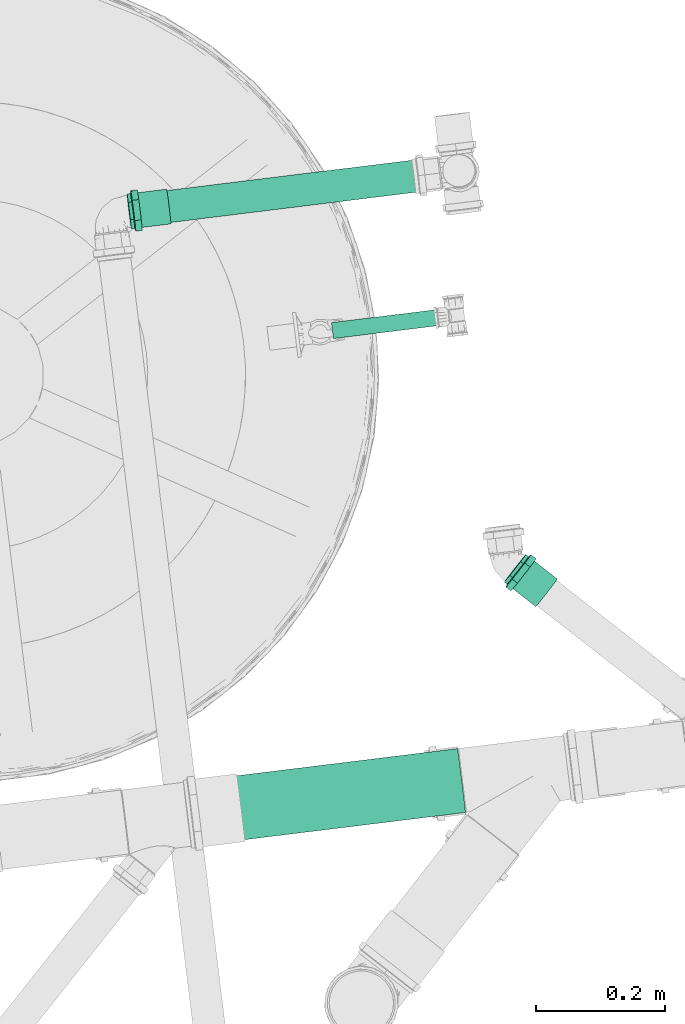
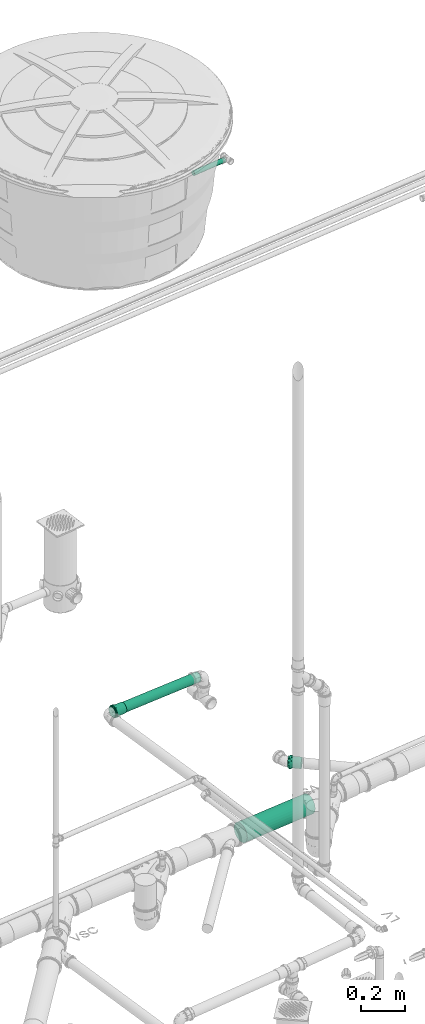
# One storey, part 25 of 97: 3 flow segments, 2 flow fittings.
"""IFC2X3 building model written with IfcOpenShell, lengths in centimetres."""

import ifcopenshell
import ifcopenshell.guid

model = None  # the IFC model being written
_history = None  # IfcOwnerHistory: only IFC2X3 demands one
_inside = {}  # id of a spatial element -> (the spatial element, [elements in it])
_under = {}  # id of a project, library or spatial element -> (it, [spatial elements below it])
_declared = {}  # id of a project -> (the project, [libraries it declares])
_typed = {}  # id of a type object -> (the type object, [elements of that type])
_made_of = {}  # id of a material, layer set ... -> (it, [elements and type objects made of it])


def new_model(schema):
    """Start an empty IFC model of exactly this schema.

    Asked for "IFC4X3", IfcOpenShell would pick the latest addendum, in which some entities
    have other attributes; the version numbers below select the first issue.
    IFC2X3 requires an IfcOwnerHistory on every rooted entity: one is made here for all.
    """
    global model, _history
    if schema == "IFC4X3":
        model = ifcopenshell.file(schema_version=(4, 3, 0, 0))
    else:
        model = ifcopenshell.file(schema=schema)
    _inside.clear()
    _under.clear()
    _declared.clear()
    _typed.clear()
    _made_of.clear()
    _history = None
    if model.schema == "IFC2X3":
        org = make("IfcOrganization", Name="unknown")
        user = make(
            "IfcPersonAndOrganization",
            ThePerson=make("IfcPerson", FamilyName="unknown"),
            TheOrganization=org,
        )
        app = make(
            "IfcApplication",
            ApplicationDeveloper=org,
            Version="unknown",
            ApplicationFullName="unknown",
            ApplicationIdentifier="unknown",
        )
        _history = make(
            "IfcOwnerHistory",
            OwningUser=user,
            OwningApplication=app,
            ChangeAction="ADDED",
            CreationDate=0,
        )
    return model


def make(cls, **values):
    """One entity of the class cls with the attributes given. An attribute that is None is left unset."""
    return model.create_entity(
        cls, **{name: value for name, value in values.items() if value is not None}
    )


def entity(cls, *values):
    """Any entity or typed value of the class cls, its attributes in the order of the schema. None: left unset."""
    e = model.create_entity(cls)
    for i, value in enumerate(values):
        if value is not None:
            e[i] = value
    return e


def rooted(cls, **values):
    """An entity with a GlobalId (a new one), such as an element, a storey or a relation."""
    return make(cls, GlobalId=ifcopenshell.guid.new(), OwnerHistory=_history, **values)


def si_unit(unit_type, name, prefix=None):
    """IfcSIUnit, for example si_unit("LENGTHUNIT", "METRE", prefix="MILLI")."""
    return make("IfcSIUnit", UnitType=unit_type, Prefix=prefix, Name=name)


def converted_unit(unit_type, name, factor, base, dimensions=None, offset=None):
    """IfcConversionBasedUnit, such as the inch: factor (a typed value) times the base unit."""
    return make(
        "IfcConversionBasedUnit"
        if offset is None
        else "IfcConversionBasedUnitWithOffset",
        ConversionOffset=offset,
        Dimensions=None
        if dimensions is None
        else entity("IfcDimensionalExponents", *dimensions),
        UnitType=unit_type,
        Name=name,
        ConversionFactor=make(
            "IfcMeasureWithUnit", ValueComponent=factor, UnitComponent=base
        ),
    )


def derived_unit(unit_type, elements):
    """IfcDerivedUnit: a product of units, each with its exponent."""
    return make(
        "IfcDerivedUnit",
        Elements=[
            make("IfcDerivedUnitElement", Unit=unit, Exponent=power)
            for unit, power in elements
        ],
        UnitType=unit_type,
    )


def assignment(units):
    """IfcUnitAssignment: the units of a project."""
    return None if units is None else make("IfcUnitAssignment", Units=units)


def point(xyz):
    """IfcCartesianPoint."""
    return None if xyz is None else make("IfcCartesianPoint", Coordinates=xyz)


def direction(xyz):
    """IfcDirection."""
    return None if xyz is None else make("IfcDirection", DirectionRatios=xyz)


def frame(location, z_axis=None, x_axis=None):
    """IfcAxis2Placement3D, a coordinate frame: its origin and axes. An axis left out is left unset."""
    return make(
        "IfcAxis2Placement3D",
        Location=point(location),
        Axis=direction(z_axis),
        RefDirection=direction(x_axis),
    )


def frame_2d(location, x_axis=None):
    """IfcAxis2Placement2D, a coordinate frame in the plane: its origin and x axis."""
    return make(
        "IfcAxis2Placement2D", Location=point(location), RefDirection=direction(x_axis)
    )


def origin():
    """The frame at (0, 0, 0) with its axes left unset."""
    return frame((0.0, 0.0, 0.0))


def origin_2d_with_axis():
    """The frame at (0, 0) in the plane with the x axis (1, 0) written out."""
    return frame_2d((0.0, 0.0), x_axis=(1.0, 0.0))


def place(relative_to, where):
    """IfcLocalPlacement: puts the frame where relative to a parent placement (None: the world)."""
    return make(
        "IfcLocalPlacement", PlacementRelTo=relative_to, RelativePlacement=where
    )


def context(
    kind, dimensions, precision=None, world=None, true_north=None, identifier=None
):
    """IfcGeometricRepresentationContext, for example the 3D "Model" context."""
    return make(
        "IfcGeometricRepresentationContext",
        ContextIdentifier=identifier,
        ContextType=kind,
        CoordinateSpaceDimension=dimensions,
        Precision=precision,
        WorldCoordinateSystem=world,
        TrueNorth=true_north,
    )


def subcontext(parent, identifier, kind, view, scale=None):
    """IfcGeometricRepresentationSubContext, for example "Body" below "Model"."""
    return make(
        "IfcGeometricRepresentationSubContext",
        ContextIdentifier=identifier,
        ContextType=kind,
        ParentContext=parent,
        TargetScale=scale,
        TargetView=view,
    )


def project(units=None, contexts=None):
    """IfcProject with its units and contexts."""
    return rooted(
        "IfcProject",
        Name="project",
        RepresentationContexts=contexts,
        UnitsInContext=assignment(units),
    )


def spatial(cls, under=None, at=None, **own):
    """A site, building, storey or space (cls), placed at a placement, below another one or the project."""
    s = rooted(cls, ObjectPlacement=at, **own)
    if under is not None:
        _under.setdefault(under.id(), (under, []))[1].append(s)
    return s


def profile(cls, at=None, kind="AREA", **sizes):
    """A parametric profile (cls). Its sizes go by their IFC names, for example OverallWidth=200.0."""
    return make(cls, ProfileType=kind, Position=at, **sizes)


def circle(**sizes):
    """IfcCircleProfileDef."""
    return profile("IfcCircleProfileDef", **sizes)


def extrude(swept, where, along, depth):
    """IfcExtrudedAreaSolid: the profile swept, set in the frame where, extruded along a direction by depth."""
    return make(
        "IfcExtrudedAreaSolid",
        SweptArea=swept,
        Position=where,
        ExtrudedDirection=direction(along),
        Depth=depth,
    )


def faces_of(points, faces, orient=None, outer=None):
    """IfcFace entities. A face is a list of loops; a loop is a list of indices into points, from 0.

    orient and outer hold one flag for each loop. By default every Orientation is true, the
    first loop of a face is its IfcFaceOuterBound and the others are IfcFaceBound.
    """
    made = []
    for i, loops in enumerate(faces):
        bounds = []
        for j, loop in enumerate(loops):
            is_outer = j == 0 if outer is None else outer[i][j]
            bounds.append(
                make(
                    "IfcFaceOuterBound" if is_outer else "IfcFaceBound",
                    Bound=make("IfcPolyLoop", Polygon=[points[k] for k in loop]),
                    Orientation=True if orient is None else orient[i][j],
                )
            )
        made.append(make("IfcFace", Bounds=bounds))
    return made


def faceted_brep(points, faces, orient=None, outer=None, voids=None):
    """IfcFacetedBrep: a solid bounded by flat faces; with voids (closed shells), ...WithVoids."""
    shared = [point(p) for p in points]
    hull = make("IfcClosedShell", CfsFaces=faces_of(shared, faces, orient, outer))
    if voids is None:
        return make("IfcFacetedBrep", Outer=hull)
    return make(
        "IfcFacetedBrepWithVoids",
        Outer=hull,
        Voids=[
            make(cls, CfsFaces=faces_of(shared, fs, o, b)) for cls, fs, o, b in voids
        ],
    )


def shape(context_of_items, identifier, shape_type, items):
    """IfcShapeRepresentation: the items that make up one representation, for example the "Body"."""
    return make(
        "IfcShapeRepresentation",
        ContextOfItems=context_of_items,
        RepresentationIdentifier=identifier,
        RepresentationType=shape_type,
        Items=items,
    )


def source(mapping_origin, context_of_items, identifier, shape_type, items):
    """IfcRepresentationMap: a shape defined once, which mapped items show again and again."""
    return make(
        "IfcRepresentationMap",
        MappingOrigin=mapping_origin,
        MappedRepresentation=shape(context_of_items, identifier, shape_type, items),
    )


def transform(
    local_origin,
    x_axis=None,
    y_axis=None,
    z_axis=None,
    scale=None,
    scale2=None,
    scale3=None,
    uniform=True,
):
    """IfcCartesianTransformationOperator3D, or its non-uniform kind. x_axis, y_axis, z_axis: its Axis1, 2, 3."""
    if uniform:
        return make(
            "IfcCartesianTransformationOperator3D",
            Axis1=direction(x_axis),
            Axis2=direction(y_axis),
            LocalOrigin=point(local_origin),
            Scale=scale,
            Axis3=direction(z_axis),
        )
    return make(
        "IfcCartesianTransformationOperator3DnonUniform",
        Axis1=direction(x_axis),
        Axis2=direction(y_axis),
        LocalOrigin=point(local_origin),
        Scale=scale,
        Axis3=direction(z_axis),
        Scale2=scale2,
        Scale3=scale3,
    )


def mapped(mapping_source, mapping_target):
    """IfcMappedItem: shows the shape of a source again, moved by a transform."""
    return make(
        "IfcMappedItem", MappingSource=mapping_source, MappingTarget=mapping_target
    )


def material(Name=None, Category=None):
    """IfcMaterial."""
    return make("IfcMaterial", Name=Name, Category=Category)


def made_of(thing, what):
    """Note that an element or type object is made of a material, layer set ...; save() writes the relation."""
    if what is not None:
        _made_of.setdefault(what.id(), (what, []))[1].append(thing)
    return thing


def type_object(cls, material=None, **own):
    """A type object (cls), such as IfcWallType, which elements share."""
    return made_of(rooted(cls, **own), material)


def type_shapes(of_type, sources):
    """Give a type object the sources (RepresentationMaps) that its elements show as mapped items."""
    of_type.RepresentationMaps = sources


def element(
    cls,
    number,
    at=None,
    inside=None,
    cuts=None,
    type_object=None,
    material=None,
    context=None,
    identifier="Body",
    shape_type=None,
    held_by="IfcProductDefinitionShape",
    body=None,
    shapes=None,
    **own,
):
    """One element of the class cls, such as IfcWall. Its Tag is "e" and its number.

    at: its placement. inside: the storey or other place that contains it. cuts: it is an
    opening in that element (IfcRelVoidsElement). A single representation is given by context,
    identifier, shape_type and body (its items); several are given by shapes. held_by: the class
    of the entity that holds the representations. save() writes the other relations.
    """
    e = rooted(cls, Tag="e%d" % number, ObjectPlacement=at, **own)
    if body is not None:
        shapes = [shape(context, identifier, shape_type, body)]
    if shapes is not None:
        e.Representation = make(held_by, Representations=shapes)
    if inside is not None:
        _inside.setdefault(inside.id(), (inside, []))[1].append(e)
    if cuts is not None:
        rooted(
            "IfcRelVoidsElement", RelatingBuildingElement=cuts, RelatedOpeningElement=e
        )
    if type_object is not None:
        _typed.setdefault(type_object.id(), (type_object, []))[1].append(e)
    return made_of(e, material)


def aggregate(whole, parts):
    """IfcRelAggregates: a whole, such as a stair, and the parts it consists of."""
    return rooted("IfcRelAggregates", RelatingObject=whole, RelatedObjects=parts)


def save(model, path):
    """Write the relations noted so far, then the file.

    IfcRelAggregates (storeys below a building ...), IfcRelContainedInSpatialStructure (elements
    in a storey), IfcRelDefinesByType, IfcRelAssociatesMaterial and IfcRelDeclares: one each for
    every whole, place, type object, material and project.
    """
    for whole, parts in _under.values():
        aggregate(whole, parts)
    for where, things in _inside.values():
        rooted(
            "IfcRelContainedInSpatialStructure",
            RelatedElements=things,
            RelatingStructure=where,
        )
    for kind, things in _typed.values():
        rooted("IfcRelDefinesByType", RelatedObjects=things, RelatingType=kind)
    for what, things in _made_of.values():
        rooted("IfcRelAssociatesMaterial", RelatedObjects=things, RelatingMaterial=what)
    for by, libraries in _declared.values():
        rooted("IfcRelDeclares", RelatingContext=by, RelatedDefinitions=libraries)
    model.write(path)


model = new_model("IFC2X3")

# Units and contexts
model_context = context("Model", 3, precision=0.001, world=origin(), true_north=direction((6.12303176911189e-17, 1.0)))
body_context = subcontext(model_context, "Body", "Model", "MODEL_VIEW")
ifc_project = project(units=[si_unit("LENGTHUNIT", "METRE", prefix="CENTI"), si_unit("AREAUNIT", "SQUARE_METRE"), si_unit("VOLUMEUNIT", "CUBIC_METRE"), converted_unit("PLANEANGLEUNIT", "DEGREE", entity("IfcRatioMeasure", 0.0174532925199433), si_unit("PLANEANGLEUNIT", "RADIAN"), dimensions=[0, 0, 0, 0, 0, 0, 0]), si_unit("MASSUNIT", "GRAM", prefix="KILO"), derived_unit("MASSDENSITYUNIT", [(si_unit("MASSUNIT", "GRAM", prefix="KILO"), 1), (si_unit("LENGTHUNIT", "METRE"), -3)]), derived_unit("MOMENTOFINERTIAUNIT", [(si_unit("LENGTHUNIT", "METRE"), 4)]), si_unit("TIMEUNIT", "SECOND"), si_unit("FREQUENCYUNIT", "HERTZ"), si_unit("THERMODYNAMICTEMPERATUREUNIT", "DEGREE_CELSIUS"), derived_unit("THERMALTRANSMITTANCEUNIT", [(si_unit("MASSUNIT", "GRAM", prefix="KILO"), 1), (si_unit("THERMODYNAMICTEMPERATUREUNIT", "KELVIN"), -1), (si_unit("TIMEUNIT", "SECOND"), -3)]), derived_unit("VOLUMETRICFLOWRATEUNIT", [(si_unit("LENGTHUNIT", "METRE"), 3), (si_unit("TIMEUNIT", "SECOND"), -1)]), si_unit("ELECTRICCURRENTUNIT", "AMPERE"), si_unit("ELECTRICVOLTAGEUNIT", "VOLT"), si_unit("POWERUNIT", "WATT"), si_unit("FORCEUNIT", "NEWTON", prefix="KILO"), si_unit("ILLUMINANCEUNIT", "LUX"), si_unit("LUMINOUSFLUXUNIT", "LUMEN"), si_unit("LUMINOUSINTENSITYUNIT", "CANDELA"), derived_unit("USERDEFINED", [(si_unit("MASSUNIT", "GRAM", prefix="KILO"), -1), (si_unit("LENGTHUNIT", "METRE"), -2), (si_unit("TIMEUNIT", "SECOND"), 3), (si_unit("LUMINOUSFLUXUNIT", "LUMEN"), 1)]), derived_unit("LINEARVELOCITYUNIT", [(si_unit("LENGTHUNIT", "METRE"), 1), (si_unit("TIMEUNIT", "SECOND"), -1)]), si_unit("PRESSUREUNIT", "PASCAL"), derived_unit("USERDEFINED", [(si_unit("LENGTHUNIT", "METRE"), -2), (si_unit("MASSUNIT", "GRAM", prefix="KILO"), 1), (si_unit("TIMEUNIT", "SECOND"), -2)]), derived_unit("LINEARFORCEUNIT", [(si_unit("MASSUNIT", "GRAM", prefix="KILO"), 1), (si_unit("LENGTHUNIT", "METRE"), 1), (si_unit("TIMEUNIT", "SECOND"), -2), (si_unit("LENGTHUNIT", "METRE"), -1)]), derived_unit("PLANARFORCEUNIT", [(si_unit("MASSUNIT", "GRAM", prefix="KILO"), 1), (si_unit("LENGTHUNIT", "METRE"), 1), (si_unit("TIMEUNIT", "SECOND"), -2), (si_unit("LENGTHUNIT", "METRE"), -2)])], contexts=[model_context])

# Site, building, storey
site_placement = place(None, origin())
site = spatial("IfcSite", under=ifc_project, at=site_placement, Name="Default", CompositionType="ELEMENT")
building_placement = place(site_placement, origin())
building = spatial("IfcBuilding", under=site, at=building_placement, Name="HIDROSSANITÁRIO", CompositionType="ELEMENT")
storey_placement = place(building_placement, frame((0.0, 0.0, -260.0)))
storey = spatial("IfcBuildingStorey", under=building, at=storey_placement, Name="TÉRREO-HID", CompositionType="ELEMENT", Elevation=-260.0)

# Flow segments
pipe_segment_type_1 = type_object("IfcPipeSegmentType", Name="Tipos de tubos:Tubo Marrom - Água Fria - Soldável", PredefinedType="NOTDEFINED")
flow_segment_1_placement = place(storey_placement, origin())
element("IfcFlowSegment", 1, at=flow_segment_1_placement, inside=storey, type_object=pipe_segment_type_1, Name="Tipos de tubos:Tubo Marrom - Água Fria - Soldável", ObjectType="Tipos de tubos:Tubo Marrom - Água Fria - Soldável", context=body_context, shape_type="SweptSolid", body=[
    extrude(circle(Radius=1.25, at=origin_2d_with_axis()), frame((-1599.67209853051, 3046.33017801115, 277.38892934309), z_axis=(0.992505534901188, 0.122199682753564, 2.69339050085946e-05), x_axis=(0.122199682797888, -0.992505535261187, 0.0)), (0.0, 0.0, 1.0), 17.7524779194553),
])
pipe_segment_type_2 = type_object("IfcPipeSegmentType", Name="Tipos de tubos:Tubo - Esgoto - Série Normal", PredefinedType="NOTDEFINED")
flow_segment_2_placement = place(storey_placement, origin())
element("IfcFlowSegment", 2, at=flow_segment_2_placement, inside=storey, type_object=pipe_segment_type_2, Name="Tipos de tubos:Tubo - Esgoto - Série Normal", ObjectType="Tipos de tubos:Tubo - Esgoto - Série Normal", context=body_context, shape_type="SweptSolid", body=[
    extrude(circle(Radius=2.5, at=origin_2d_with_axis()), frame((-1583.10702259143, 3070.76831600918, -21.3284955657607), z_axis=(-0.992269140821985, -0.12248508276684, 0.0199839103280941), x_axis=(0.122509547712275, -0.992467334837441, 0.0)), (0.0, 0.0, 1.0), 48.5002434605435),
])
flow_segment_3_placement = place(storey_placement, origin())
element("IfcFlowSegment", 3, at=flow_segment_3_placement, inside=storey, type_object=pipe_segment_type_2, Name="Tipos de tubos:Tubo - Esgoto - Série Normal", ObjectType="Tipos de tubos:Tubo - Esgoto - Série Normal", context=body_context, shape_type="SweptSolid", body=[
    extrude(circle(Radius=5.0, at=origin_2d_with_axis()), frame((-1617.90243926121, 2971.78374076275, -35.0996313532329), z_axis=(0.992474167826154, 0.122147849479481, -0.00865615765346), x_axis=(-0.122152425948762, 0.992511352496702, 0.0)), (0.0, 0.0, 1.0), 38.5482017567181),
])

# Flow fittings
ifc_material = material(Name="PVC Branco")
pipe_fitting_type = type_object("IfcPipeFittingType", Name="Luva Simples para Conexão - Serie Normal - Esgoto - MEP - Tigre:Standard", PredefinedType="NOTDEFINED", material=ifc_material)
shared_shape = source(origin(), body_context, "Body", "Brep", [
    faceted_brep([(1.65999999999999, 1.59, -2.75396078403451), (1.65999999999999, 2.24859956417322, -2.24859956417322), (1.65999999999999, 1.35999999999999, -2.35558909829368), (1.65999999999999, 0.703987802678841, -2.62731824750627), (1.65999999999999, 0.82304456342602, -3.07164412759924), (1.65999999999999, 1.9233304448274, -1.92333044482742), (1.65999999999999, 2.75396078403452, -1.59), (1.65999999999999, 2.35558909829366, -1.36000000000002), (1.65999999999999, 2.62731824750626, -0.703987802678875), (1.65999999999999, 3.07164412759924, -0.823044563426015), (1.65999999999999, 2.72, 0.0), (1.65999999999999, 3.18, 0.0), (1.65999999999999, 2.62731824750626, 0.703987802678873), (1.65999999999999, 3.07164412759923, 0.823044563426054), (1.65999999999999, 2.35558909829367, 1.36000000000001), (1.65999999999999, 2.7539607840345, 1.59000000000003), (1.65999999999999, 1.9233304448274, 1.92333044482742), (1.65999999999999, 2.24859956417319, 2.24859956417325), (1.65999999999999, 1.35999999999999, 2.35558909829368), (1.65999999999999, 1.58999999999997, 2.75396078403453), (1.65999999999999, 0.703987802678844, 2.62731824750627), (1.65999999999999, 0.823044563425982, 3.07164412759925), (1.65999999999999, 0.0, 2.72), (1.65999999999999, 0.0, 3.18), (1.65999999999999, -0.703987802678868, 2.62731824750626), (1.65999999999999, -0.823044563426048, 3.07164412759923), (1.65999999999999, -1.36000000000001, 2.35558909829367), (1.65999999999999, -1.59000000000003, 2.7539607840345), (1.65999999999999, -1.92333044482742, 1.9233304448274), (1.65999999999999, -2.24859956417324, 2.2485995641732), (1.65999999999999, -2.35558909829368, 1.35999999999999), (1.65999999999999, -2.75396078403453, 1.58999999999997), (1.65999999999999, -3.07164412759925, 0.823044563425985), (1.65999999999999, -2.62731824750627, 0.703987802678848), (1.65999999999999, -3.18, 0.0), (1.65999999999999, -2.72, 0.0), (1.65999999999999, -3.07164412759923, -0.823044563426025), (1.65999999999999, -2.62731824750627, -0.703987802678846), (1.65999999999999, -2.75396078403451, -1.59000000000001), (1.65999999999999, -2.35558909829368, -1.35999999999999), (1.65999999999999, -2.24859956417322, -2.24859956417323), (1.65999999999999, -1.92333044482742, -1.9233304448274), (1.65999999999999, -1.58999999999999, -2.75396078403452), (1.65999999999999, -1.36000000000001, -2.35558909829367), (1.65999999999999, -0.823044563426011, -3.07164412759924), (1.65999999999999, -0.70398780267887, -2.62731824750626), (1.65999999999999, 0.0, -3.18), (1.65999999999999, 0.0, -2.72), (0.650000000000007, -1.07081089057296, 2.94292196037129), (0.650000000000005, -2.43590738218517, 2.04420038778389), (0.650000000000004, -2.7120498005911, 1.56595386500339), (0.650000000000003, -2.98819221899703, 1.08770734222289), (0.650000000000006, -1.58976972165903, 2.75409372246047), (0.650000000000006, -2.0128385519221, 2.39914705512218), (0.650000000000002, -3.08409610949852, 0.54385367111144), (0.650000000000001, -3.18, 0.0), (0.650000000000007, -0.551852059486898, 3.13175019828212), (0.650000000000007, 0.552637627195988, 3.13161167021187), (0.650000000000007, 0.000392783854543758, 3.13168093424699), (0.650000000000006, 2.01344030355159, 2.39864206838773), (0.650000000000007, 1.07154907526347, 2.94265325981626), (0.650000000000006, 1.59046052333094, 2.75369484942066), (0.650000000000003, 2.98846497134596, 1.08695773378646), (0.650000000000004, 2.7124425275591, 1.56527351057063), (0.650000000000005, 2.43642008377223, 2.0435892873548), (0.650000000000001, 3.18, 0.0), (0.649999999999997, 2.43642008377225, -2.04358928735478), (0.649999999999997, 2.71244252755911, -1.5652735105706), (0.649999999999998, 2.98846497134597, -1.08695773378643), (0.649999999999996, 1.59046052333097, -2.75369484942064), (0.649999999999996, 2.01344030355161, -2.39864206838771), (0.649999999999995, 1.07154907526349, -2.94265325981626), (0.649999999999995, 0.552637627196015, -3.13161167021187), (0.649999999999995, -0.551852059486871, -3.13175019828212), (0.649999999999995, 0.000392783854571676, -3.13168093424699), (0.649999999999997, -2.01283855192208, -2.3991470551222), (0.649999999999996, -1.58976972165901, -2.75409372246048), (0.649999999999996, -1.07081089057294, -2.9429219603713), (0.649999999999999, -2.98819221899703, -1.08770734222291), (0.649999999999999, -2.71204980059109, -1.56595386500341), (0.649999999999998, -2.43590738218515, -2.04420038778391), (0.65, -3.08409610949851, -0.543853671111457), (0.64999999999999, -3.06961738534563, -0.625959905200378), (6.20000000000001, 1.36, -2.35558909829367), (6.20000000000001, 1.92333044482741, -1.92333044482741), (6.20000000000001, 1.24999999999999, -2.1650635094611), (6.20000000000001, 0.647047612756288, -2.41481456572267), (6.20000000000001, 0.70398780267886, -2.62731824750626), (6.20000000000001, 1.76776695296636, -1.76776695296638), (6.20000000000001, 2.35558909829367, -1.36), (6.20000000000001, 2.16506350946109, -1.25000000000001), (6.20000000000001, 2.41481456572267, -0.647047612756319), (6.20000000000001, 2.62731824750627, -0.703987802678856), (6.20000000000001, 2.5, 0.0), (6.20000000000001, 2.72, 0.0), (6.20000000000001, 2.41481456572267, 0.647047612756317), (6.20000000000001, 2.62731824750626, 0.703987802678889), (6.20000000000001, 2.16506350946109, 1.25000000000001), (6.20000000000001, 2.35558909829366, 1.36000000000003), (6.20000000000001, 1.76776695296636, 1.76776695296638), (6.20000000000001, 1.92333044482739, 1.92333044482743), (6.20000000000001, 1.24999999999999, 2.1650635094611), (6.20000000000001, 1.35999999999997, 2.35558909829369), (6.20000000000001, 0.64704761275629, 2.41481456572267), (6.20000000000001, 0.703987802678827, 2.62731824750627), (6.20000000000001, 0.0, 2.5), (6.20000000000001, 0.0, 2.72), (6.20000000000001, -0.647047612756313, 2.41481456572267), (6.20000000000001, -0.703987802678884, 2.62731824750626), (6.20000000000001, -1.25000000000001, 2.16506350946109), (6.20000000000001, -1.36000000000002, 2.35558909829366), (6.20000000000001, -1.76776695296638, 1.76776695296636), (6.20000000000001, -1.92333044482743, 1.92333044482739), (6.20000000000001, -2.1650635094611, 1.24999999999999), (6.20000000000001, -2.35558909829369, 1.35999999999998), (6.20000000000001, -2.62731824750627, 0.703987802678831), (6.20000000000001, -2.41481456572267, 0.647047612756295), (6.20000000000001, -2.72, 0.0), (6.20000000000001, -2.5, 0.0), (6.20000000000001, -2.62731824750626, -0.703987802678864), (6.20000000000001, -2.41481456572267, -0.647047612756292), (6.20000000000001, -2.35558909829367, -1.36000000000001), (6.20000000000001, -2.1650635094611, -1.24999999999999), (6.20000000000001, -1.9233304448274, -1.92333044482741), (6.20000000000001, -1.76776695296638, -1.76776695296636), (6.20000000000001, -1.36, -2.35558909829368), (6.20000000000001, -1.25000000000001, -2.16506350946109), (6.20000000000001, -0.703987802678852, -2.62731824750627), (6.20000000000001, -0.647047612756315, -2.41481456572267), (6.20000000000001, 0.0, -2.72), (6.20000000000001, 0.0, -2.5), (0.0, 1.24999999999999, -2.1650635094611), (0.0, 1.92333044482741, -1.92333044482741), (0.0, 1.36, -2.35558909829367), (0.0, 0.647047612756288, -2.41481456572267), (0.0, 1.76776695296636, -1.76776695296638), (0.0, 2.35558909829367, -1.36), (0.0, 2.16506350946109, -1.25000000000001), (0.0, 2.41481456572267, -0.647047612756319), (0.0, 2.62731824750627, -0.703987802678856), (0.0, 2.5, 0.0), (0.0, 2.72, 0.0), (0.0, 2.41481456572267, 0.647047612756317), (0.0, 2.62731824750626, 0.703987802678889), (0.0, 2.16506350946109, 1.25000000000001), (0.0, 2.35558909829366, 1.36000000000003), (0.0, 1.76776695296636, 1.76776695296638), (0.0, 1.92333044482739, 1.92333044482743), (0.0, 1.24999999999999, 2.1650635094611), (0.0, 1.35999999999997, 2.35558909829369), (0.0, 0.64704761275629, 2.41481456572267), (0.0, 0.703987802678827, 2.62731824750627), (0.0, 0.0, 2.5), (0.0, 0.0, 2.72), (0.0, -0.647047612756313, 2.41481456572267), (0.0, -0.703987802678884, 2.62731824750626), (0.0, -1.25000000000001, 2.16506350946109), (0.0, -1.36000000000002, 2.35558909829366), (0.0, -1.76776695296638, 1.76776695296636), (0.0, -1.92333044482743, 1.92333044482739), (0.0, -2.1650635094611, 1.24999999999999), (0.0, -2.35558909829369, 1.35999999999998), (0.0, -2.62731824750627, 0.703987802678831), (0.0, -2.41481456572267, 0.647047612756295), (0.0, -2.72, 0.0), (0.0, -2.5, 0.0), (0.0, -2.62731824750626, -0.703987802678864), (0.0, -2.41481456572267, -0.647047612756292), (0.0, -2.35558909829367, -1.36000000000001), (0.0, -2.1650635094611, -1.24999999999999), (0.0, -1.9233304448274, -1.92333044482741), (0.0, -1.76776695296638, -1.76776695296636), (0.0, -1.36, -2.35558909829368), (0.0, -1.25000000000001, -2.16506350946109), (0.0, -0.703987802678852, -2.62731824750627), (0.0, -0.647047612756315, -2.41481456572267), (0.0, 0.0, -2.72), (0.0, 0.0, -2.5), (0.0, 0.70398780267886, -2.62731824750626), (0.53, -2.63796899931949, 0.465183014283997), (0.529999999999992, -2.62558467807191, 0.535412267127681), (0.530000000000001, -2.55593799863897, 0.930366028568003), (0.530000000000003, -2.08354342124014, 1.74849844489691), (0.530000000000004, -1.72167322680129, 2.05210062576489), (0.530000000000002, -2.31974070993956, 1.33943223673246), (0.530000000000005, -0.472024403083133, 2.67872972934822), (0.530000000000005, -0.915913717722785, 2.51721626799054), (0.53, -2.72, 0.0), (0.530000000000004, -1.35980303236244, 2.35570280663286), (0.530000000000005, 0.916545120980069, 2.51698643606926), (0.530000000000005, 1.36039390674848, 2.35536163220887), (0.530000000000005, 0.47269633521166, 2.67861123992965), (0.530000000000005, 1.72218793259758, 2.05166868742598), (0.530000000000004, 2.08398195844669, 1.7479757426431), (0.530000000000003, 2.5561712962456, 0.929724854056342), (0.53, 2.72, 0.0), (0.530000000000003, 2.32007662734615, 1.33885029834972), (0.530000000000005, 0.000335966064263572, 2.67867048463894), (0.529999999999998, 2.55617129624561, -0.929724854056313), (0.529999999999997, 2.08398195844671, -1.74797574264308), (0.529999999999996, 1.7221879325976, -2.05166868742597), (0.529999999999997, 2.32007662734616, -1.3388502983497), (0.529999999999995, 0.472696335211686, -2.67861123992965), (0.529999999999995, 0.916545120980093, -2.51698643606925), (0.529999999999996, 1.3603939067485, -2.35536163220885), (0.529999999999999, -2.63796899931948, -0.465183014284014), (0.529999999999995, -0.915913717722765, -2.51721626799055), (0.529999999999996, -1.35980303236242, -2.35570280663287), (0.529999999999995, -0.47202440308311, -2.67872972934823), (0.529999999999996, -1.72167322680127, -2.0521006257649), (0.529999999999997, -2.08354342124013, -1.74849844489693), (0.529999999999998, -2.55593799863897, -0.930366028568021), (0.529999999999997, -2.31974070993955, -1.33943223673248), (0.529999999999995, 0.000335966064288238, -2.67867048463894), (3.9, -2.5, 0.0), (3.9, 2.5, 0.0)], [[[0, 1, 2]], [[0, 2, 3]], [[3, 4, 0]], [[2, 1, 5]], [[6, 5, 1]], [[7, 5, 6]], [[8, 7, 6]], [[8, 6, 9]], [[8, 9, 10]], [[10, 9, 11]], [[12, 10, 11]], [[12, 11, 13]], [[14, 12, 13]], [[14, 13, 15]], [[16, 14, 15]], [[15, 17, 16]], [[17, 18, 16]], [[17, 19, 18]], [[18, 19, 20]], [[21, 20, 19]], [[20, 21, 22]], [[22, 21, 23]], [[22, 23, 24]], [[24, 23, 25]], [[24, 25, 26]], [[27, 26, 25]], [[27, 28, 26]], [[28, 27, 29]], [[30, 28, 29]], [[31, 30, 29]], [[32, 30, 31]], [[33, 30, 32]], [[33, 32, 34]], [[35, 33, 34]], [[36, 35, 34]], [[36, 37, 35]], [[37, 36, 38]], [[39, 37, 38]], [[39, 38, 40]], [[39, 40, 41]], [[40, 42, 41]], [[41, 42, 43]], [[43, 42, 44]], [[44, 45, 43]], [[46, 45, 44]], [[4, 47, 46]], [[46, 47, 45]], [[4, 3, 47]], [[48, 27, 25]], [[31, 29, 49]], [[31, 49, 50, 51]], [[52, 53, 27]], [[32, 51, 54]], [[54, 55, 34]], [[54, 34, 32]], [[25, 56, 48]], [[49, 29, 53]], [[23, 57, 58, 56]], [[59, 19, 17]], [[27, 53, 29]], [[48, 52, 27]], [[31, 51, 32]], [[57, 23, 21]], [[60, 19, 61]], [[15, 62, 63, 64]], [[19, 60, 21]], [[15, 13, 62]], [[17, 64, 59]], [[57, 21, 60]], [[23, 56, 25]], [[15, 64, 17]], [[13, 65, 62]], [[13, 11, 65]], [[59, 61, 19]], [[65, 11, 9]], [[6, 1, 66]], [[6, 66, 67, 68]], [[69, 70, 0]], [[68, 65, 9]], [[71, 69, 0]], [[71, 0, 4]], [[4, 72, 71]], [[66, 1, 70]], [[46, 73, 74, 72]], [[75, 76, 42]], [[0, 70, 1]], [[75, 42, 40]], [[6, 68, 9]], [[73, 46, 44]], [[77, 42, 76]], [[38, 78, 79, 80]], [[42, 77, 44]], [[38, 36, 78]], [[40, 80, 75]], [[73, 44, 77]], [[46, 72, 4]], [[38, 80, 40]], [[36, 81, 82, 78]], [[55, 81, 34]], [[34, 81, 36]], [[83, 84, 85]], [[83, 85, 86]], [[86, 87, 83]], [[85, 84, 88]], [[89, 88, 84]], [[88, 89, 90]], [[90, 89, 91]], [[92, 91, 89]], [[92, 93, 91]], [[93, 92, 94]], [[95, 93, 94]], [[94, 96, 95]], [[95, 96, 97]], [[98, 97, 96]], [[97, 98, 99]], [[99, 98, 100]], [[101, 99, 100]], [[100, 102, 101]], [[101, 102, 103]], [[104, 103, 102]], [[103, 104, 105]], [[105, 104, 106]], [[105, 106, 107]], [[107, 106, 108]], [[107, 108, 109]], [[110, 109, 108]], [[110, 111, 109]], [[111, 110, 112]], [[112, 113, 111]], [[114, 113, 112]], [[113, 114, 115]], [[115, 116, 113]], [[117, 116, 115]], [[117, 118, 116]], [[119, 118, 117]], [[119, 120, 118]], [[120, 119, 121]], [[121, 122, 120]], [[122, 121, 123]], [[122, 123, 124]], [[123, 125, 124]], [[124, 125, 126]], [[126, 125, 127]], [[127, 128, 126]], [[129, 128, 127]], [[87, 130, 129]], [[129, 130, 128]], [[87, 86, 130]], [[131, 132, 133]], [[134, 131, 133]], [[135, 132, 131]], [[132, 135, 136]], [[137, 136, 135]], [[138, 136, 137]], [[136, 138, 139]], [[138, 140, 139]], [[141, 139, 140]], [[141, 140, 142]], [[142, 143, 141]], [[144, 143, 142]], [[143, 144, 145]], [[146, 145, 144]], [[147, 145, 146]], [[147, 146, 148]], [[148, 149, 147]], [[150, 149, 148]], [[149, 150, 151]], [[152, 151, 150]], [[153, 151, 152]], [[154, 153, 152]], [[155, 153, 154]], [[156, 155, 154]], [[155, 156, 157]], [[156, 158, 157]], [[159, 157, 158]], [[158, 160, 159]], [[159, 160, 161]], [[162, 161, 160]], [[160, 163, 162]], [[162, 163, 164]], [[163, 165, 164]], [[164, 165, 166]], [[165, 167, 166]], [[168, 166, 167]], [[167, 169, 168]], [[170, 168, 169]], [[171, 170, 169]], [[171, 172, 170]], [[173, 172, 171]], [[174, 172, 173]], [[173, 175, 174]], [[174, 175, 176]], [[175, 177, 176]], [[177, 134, 178]], [[176, 177, 178]], [[133, 178, 134]], [[162, 179, 180, 181]], [[159, 182, 183]], [[182, 161, 181, 184]], [[185, 155, 186]], [[161, 162, 181]], [[187, 179, 164]], [[183, 188, 157]], [[183, 157, 159]], [[161, 182, 159]], [[189, 190, 149]], [[189, 149, 151]], [[157, 188, 186]], [[157, 186, 155]], [[153, 155, 185]], [[164, 179, 162]], [[151, 191, 189]], [[147, 192, 193]], [[143, 194, 195]], [[194, 145, 193, 196]], [[143, 195, 141]], [[10, 12, 96, 94]], [[149, 192, 147]], [[153, 185, 197, 191]], [[153, 191, 151]], [[145, 147, 193]], [[190, 192, 149]], [[145, 194, 143]], [[139, 195, 198]], [[132, 199, 200]], [[199, 136, 198, 201]], [[202, 178, 203]], [[136, 139, 198]], [[139, 141, 195]], [[92, 8, 10, 94]], [[133, 203, 178]], [[200, 204, 133]], [[136, 199, 132]], [[205, 164, 166]], [[206, 207, 172]], [[133, 204, 203]], [[206, 172, 174]], [[176, 178, 202]], [[200, 133, 132]], [[174, 208, 206]], [[170, 209, 210]], [[166, 211, 205]], [[211, 168, 210, 212]], [[168, 211, 166]], [[172, 209, 170]], [[176, 202, 213, 208]], [[176, 208, 174]], [[168, 170, 210]], [[207, 209, 172]], [[205, 187, 164]], [[116, 118, 214, 165, 163]], [[156, 109, 111, 158]], [[111, 113, 160, 158]], [[113, 116, 163, 160]], [[107, 109, 156, 154]], [[154, 152, 105, 107]], [[103, 105, 152, 150]], [[103, 150, 148, 101]], [[142, 95, 97, 144]], [[97, 99, 146, 144]], [[99, 101, 148, 146]], [[93, 95, 142, 140, 215]], [[215, 140, 138, 91, 93]], [[135, 131, 85, 88]], [[90, 91, 138, 137]], [[90, 137, 135, 88]], [[86, 85, 131, 134]], [[134, 177, 130, 86]], [[128, 130, 177, 175]], [[128, 175, 173, 126]], [[167, 120, 122, 169]], [[122, 124, 171, 169]], [[124, 126, 173, 171]], [[118, 120, 167, 165, 214]], [[211, 78, 82, 81, 55, 187, 205]], [[79, 78, 211, 212, 210, 80]], [[75, 80, 210, 209, 207, 76]], [[207, 206, 208, 73, 77, 76]], [[213, 202, 72, 74, 73, 208]], [[203, 204, 69, 71, 72, 202]], [[198, 195, 65, 68]], [[199, 201, 198, 68, 67, 66]], [[204, 200, 199, 66, 70, 69]], [[195, 194, 62, 65]], [[197, 185, 56, 58, 57, 191]], [[63, 62, 194, 196, 193, 64]], [[57, 60, 61, 190, 189, 191]], [[193, 192, 190, 61, 59, 64]], [[48, 56, 185, 186, 188, 52]], [[187, 55, 54, 51, 181, 180, 179]], [[182, 184, 181, 51, 50, 49]], [[188, 183, 182, 49, 53, 52]], [[30, 33, 115, 114]], [[117, 115, 33, 35]], [[26, 28, 112, 110]], [[114, 112, 28, 30]], [[24, 26, 110, 108]], [[108, 106, 22, 24]], [[18, 20, 104, 102]], [[100, 16, 18, 102]], [[12, 14, 98, 96]], [[100, 98, 14, 16]], [[104, 20, 22, 106]], [[89, 7, 8, 92]], [[83, 87, 3, 2]], [[7, 89, 84, 5]], [[83, 2, 5, 84]], [[87, 129, 47, 3]], [[43, 45, 127, 125]], [[123, 41, 43, 125]], [[37, 39, 121, 119]], [[123, 121, 39, 41]], [[35, 37, 119, 117]], [[127, 45, 47, 129]]]),
])
type_shapes(pipe_fitting_type, [shared_shape])
for number, where, z_axis, x_axis, name in (
    (4, (-1571.33128686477, 3009.44150583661, -35.101483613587), (0.0124065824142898, -0.0166059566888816, 0.999785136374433), (0.787905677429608, -0.615471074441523, -0.0199999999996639), "Luva Simples para Conexão - Serie Normal - Esgoto - MEP - Tigre:Standard"),
    (5, (-1631.23231749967, 3064.8277596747, -20.3592710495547), (0.0173625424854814, 0.0224317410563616, 0.999597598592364), (0.992269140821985, 0.122485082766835, -0.0199839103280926), "Luva Simples para Conexão - Serie Normal - Esgoto - MEP - Tigre:Standard"),
):
    element("IfcFlowFitting", number, at=place(storey_placement, frame(where, z_axis=z_axis, x_axis=x_axis)), inside=storey, type_object=pipe_fitting_type, material=ifc_material, Name=name, ObjectType="Luva Simples para Conexão - Serie Normal - Esgoto - MEP - Tigre:Standard", context=body_context, shape_type="MappedRepresentation", body=[
        mapped(shared_shape, transform((0.0, 0.0, 0.0), scale=1.0)),
    ])

save(model, "model.ifc")
